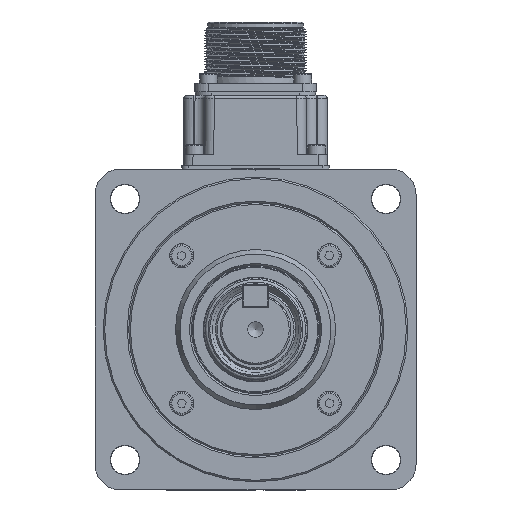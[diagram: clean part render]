
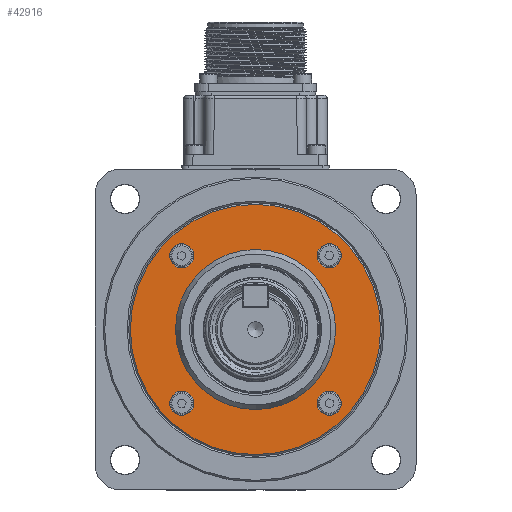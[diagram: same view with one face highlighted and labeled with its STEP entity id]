
A CAD part, left-side view. The second image highlights one B-rep face of the part: STEP entity #42916.
In plain terms, the highlighted planar face has unit normal (-1, 0, 0) as drawn and (0, -1, 0) by its records, which use the part's own axes.
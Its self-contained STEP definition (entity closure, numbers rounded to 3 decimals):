
#20489=ORIENTED_EDGE('',*,*,#26500,.T.);
#20490=ORIENTED_EDGE('',*,*,#26501,.T.);
#20491=ORIENTED_EDGE('',*,*,#26502,.T.);
#20492=ORIENTED_EDGE('',*,*,#26503,.T.);
#20493=ORIENTED_EDGE('',*,*,#26504,.T.);
#20494=ORIENTED_EDGE('',*,*,#26499,.F.);
#26499=EDGE_CURVE('',#30594,#30594,#32199,.T.);
#26500=EDGE_CURVE('',#30595,#30595,#32200,.T.);
#26501=EDGE_CURVE('',#30596,#30596,#32201,.F.);
#26502=EDGE_CURVE('',#30597,#30597,#32202,.F.);
#26503=EDGE_CURVE('',#30598,#30598,#32203,.F.);
#26504=EDGE_CURVE('',#30599,#30599,#32204,.F.);
#30594=VERTEX_POINT('',#90458);
#30595=VERTEX_POINT('',#90461);
#30596=VERTEX_POINT('',#90463);
#30597=VERTEX_POINT('',#90465);
#30598=VERTEX_POINT('',#90467);
#30599=VERTEX_POINT('',#90469);
#32199=CIRCLE('',#46936,24.943);
#32200=CIRCLE('',#46938,39.);
#32201=CIRCLE('',#46939,3.75);
#32202=CIRCLE('',#46940,3.75);
#32203=CIRCLE('',#46941,3.75);
#32204=CIRCLE('',#46942,3.75);
#35549=EDGE_LOOP('',(#20489));
#35550=EDGE_LOOP('',(#20490));
#35551=EDGE_LOOP('',(#20491));
#35552=EDGE_LOOP('',(#20492));
#35553=EDGE_LOOP('',(#20493));
#35554=EDGE_LOOP('',(#20494));
#39050=FACE_BOUND('',#35549,.T.);
#39051=FACE_BOUND('',#35550,.T.);
#39052=FACE_BOUND('',#35551,.T.);
#39053=FACE_BOUND('',#35552,.T.);
#39054=FACE_BOUND('',#35553,.T.);
#39055=FACE_BOUND('',#35554,.T.);
#40371=PLANE('',#46937);
#42916=ADVANCED_FACE('',(#39050,#39051,#39052,#39053,#39054,#39055),#40371,
 .T.);
#46936=AXIS2_PLACEMENT_3D('',#90457,#57850,#57851);
#46937=AXIS2_PLACEMENT_3D('',#90459,#57852,#57853);
#46938=AXIS2_PLACEMENT_3D('',#90460,#57854,#57855);
#46939=AXIS2_PLACEMENT_3D('',#90462,#57856,#57857);
#46940=AXIS2_PLACEMENT_3D('',#90464,#57858,#57859);
#46941=AXIS2_PLACEMENT_3D('',#90466,#57860,#57861);
#46942=AXIS2_PLACEMENT_3D('',#90468,#57862,#57863);
#57850=DIRECTION('',(0.,-1.,0.));
#57851=DIRECTION('',(0.,0.,-1.));
#57852=DIRECTION('',(0.,-1.,0.));
#57853=DIRECTION('',(0.,0.,-1.));
#57854=DIRECTION('',(0.,-1.,0.));
#57855=DIRECTION('',(0.,0.,-1.));
#57856=DIRECTION('',(0.,-1.,0.));
#57857=DIRECTION('',(0.,0.,-1.));
#57858=DIRECTION('',(0.,-1.,0.));
#57859=DIRECTION('',(0.,0.,-1.));
#57860=DIRECTION('',(0.,-1.,0.));
#57861=DIRECTION('',(0.,0.,-1.));
#57862=DIRECTION('',(0.,-1.,0.));
#57863=DIRECTION('',(0.,0.,-1.));
#90457=CARTESIAN_POINT('',(0.,0.5,0.));
#90458=CARTESIAN_POINT('',(0.,0.5,-24.943));
#90459=CARTESIAN_POINT('',(0.,0.5,39.5));
#90460=CARTESIAN_POINT('',(0.,0.5,0.));
#90461=CARTESIAN_POINT('',(0.,0.5,-39.));
#90462=CARTESIAN_POINT('',(-22.981,0.5,22.981));
#90463=CARTESIAN_POINT('',(-22.981,0.5,19.231));
#90464=CARTESIAN_POINT('',(22.981,0.5,22.981));
#90465=CARTESIAN_POINT('',(22.981,0.5,19.231));
#90466=CARTESIAN_POINT('',(22.981,0.5,-22.981));
#90467=CARTESIAN_POINT('',(22.981,0.5,-26.731));
#90468=CARTESIAN_POINT('',(-22.981,0.5,-22.981));
#90469=CARTESIAN_POINT('',(-22.981,0.5,-26.731));
